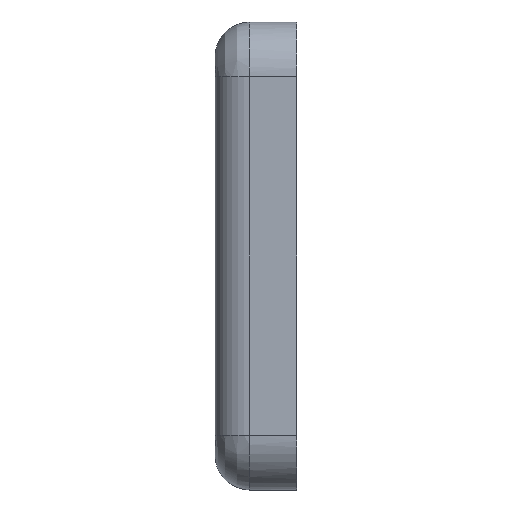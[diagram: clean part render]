
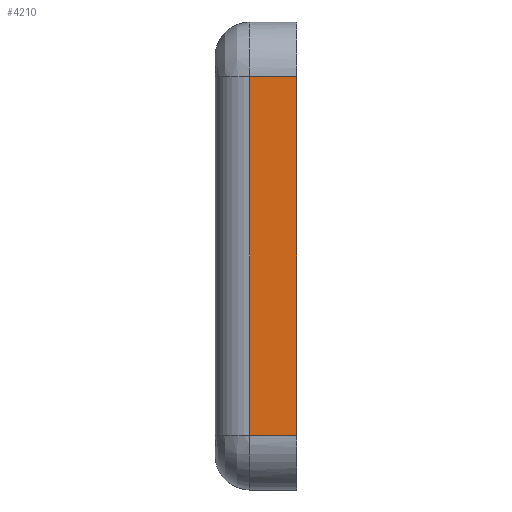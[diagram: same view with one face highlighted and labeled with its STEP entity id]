
A CAD part, left-side view. The second image highlights one B-rep face of the part: STEP entity #4210.
In plain terms, the highlighted planar face has unit normal (-1, 0, 0).
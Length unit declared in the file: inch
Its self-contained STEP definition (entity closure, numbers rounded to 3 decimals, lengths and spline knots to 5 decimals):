
#135 = ORIENTED_EDGE ( 'NONE', *, *, #18301, .T. ) ;
#1414 = DIRECTION ( 'NONE',  ( 0., 0., -1. ) ) ;
#1949 = EDGE_LOOP ( 'NONE', ( #20874, #135, #32900, #33130 ) ) ;
#2025 = CARTESIAN_POINT ( 'NONE',  ( -13.58713, 25.37447, -2.95023 ) ) ;
#4210 = ADVANCED_FACE ( 'NONE', ( #51073 ), #21376, .F. ) ;
#4766 = CARTESIAN_POINT ( 'NONE',  ( -13.58713, 0.00019, 0. ) ) ;
#8089 = VERTEX_POINT ( 'NONE', #13517 ) ;
#8445 = VERTEX_POINT ( 'NONE', #11367 ) ;
#11367 = CARTESIAN_POINT ( 'NONE',  ( -13.58713, 1.36224, 7.39265 ) ) ;
#13517 = CARTESIAN_POINT ( 'NONE',  ( -13.58713, 1.36224, -2.95023 ) ) ;
#14477 = CARTESIAN_POINT ( 'NONE',  ( -13.58713, 1.36224, 0. ) ) ;
#18032 = LINE ( 'NONE', #14477, #31925 ) ;
#18301 = EDGE_CURVE ( 'NONE', #8445, #8089, #18032, .T. ) ;
#18580 = EDGE_CURVE ( 'NONE', #26153, #36724, #44672, .T. ) ;
#20874 = ORIENTED_EDGE ( 'NONE', *, *, #41180, .F. ) ;
#20941 = CARTESIAN_POINT ( 'NONE',  ( -13.58713, 0.00019, -2.95023 ) ) ;
#21376 = PLANE ( 'NONE',  #25121 ) ;
#24445 = CARTESIAN_POINT ( 'NONE',  ( -13.58713, 0.00019, 7.39265 ) ) ;
#25121 = AXIS2_PLACEMENT_3D ( 'NONE', #46287, #45606, #1414 ) ;
#25264 = VECTOR ( 'NONE', #26938, 39.37008 ) ;
#26153 = VERTEX_POINT ( 'NONE', #20941 ) ;
#26856 = CARTESIAN_POINT ( 'NONE',  ( -13.58713, 25.37447, 7.39265 ) ) ;
#26938 = DIRECTION ( 'NONE',  ( 0., -1., 0. ) ) ;
#27752 = EDGE_CURVE ( 'NONE', #8089, #26153, #43640, .T. ) ;
#30530 = DIRECTION ( 'NONE',  ( 0., -1., 0. ) ) ;
#31925 = VECTOR ( 'NONE', #38155, 39.37008 ) ;
#32900 = ORIENTED_EDGE ( 'NONE', *, *, #27752, .T. ) ;
#33017 = DIRECTION ( 'NONE',  ( 0., 0., 1. ) ) ;
#33130 = ORIENTED_EDGE ( 'NONE', *, *, #18580, .T. ) ;
#33931 = LINE ( 'NONE', #26856, #49810 ) ;
#36724 = VERTEX_POINT ( 'NONE', #24445 ) ;
#38155 = DIRECTION ( 'NONE',  ( 0., 0., -1. ) ) ;
#40220 = VECTOR ( 'NONE', #33017, 39.37008 ) ;
#41180 = EDGE_CURVE ( 'NONE', #8445, #36724, #33931, .T. ) ;
#43640 = LINE ( 'NONE', #2025, #25264 ) ;
#44672 = LINE ( 'NONE', #4766, #40220 ) ;
#45606 = DIRECTION ( 'NONE',  ( 1., 0., 0. ) ) ;
#46287 = CARTESIAN_POINT ( 'NONE',  ( -13.58713, 25.37447, 0. ) ) ;
#49810 = VECTOR ( 'NONE', #30530, 39.37008 ) ;
#51073 = FACE_OUTER_BOUND ( 'NONE', #1949, .T. ) ;
